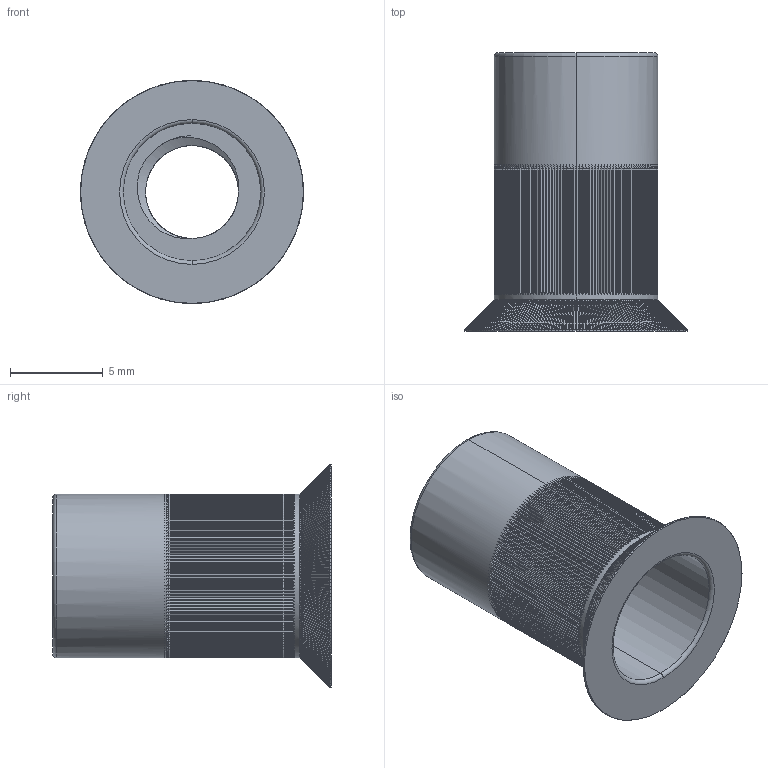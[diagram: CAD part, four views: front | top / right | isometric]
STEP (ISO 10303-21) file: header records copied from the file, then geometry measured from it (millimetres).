
FILE_DESCRIPTION (( 'STEP AP203' ), '1' );
FILE_NAME ('TANR-304-M6.STEP', '2026-08-24T08:50:51', ( '' ), ( '' ), 'SwSTEP 2.0', 'SolidWorks 2020', '' );
FILE_SCHEMA (( 'CONFIG_CONTROL_DESIGN' ));
Length unit declared in the file: millimetre
Products named in the file (1): TANR-304-M6
Bounding box: 12 x 15 x 12 mm (x, y, z)
Volume: 459.3 mm3; surface area: 1010.8 mm2
Topology: 1 solids, 1 shells, 1796 faces, 4572 edges, 2937 vertices
Faces by surface type: plane 723, cone 644, cylinder 422, torus 4, bspline 3
Entity records: 58605 total; most frequent: CARTESIAN_POINT 20911, ORIENTED_EDGE 9144, DIRECTION 6219, EDGE_CURVE 4572, VERTEX_POINT 2937, AXIS2_PLACEMENT_3D 2336, EDGE_LOOP 1957, ADVANCED_FACE 1796
